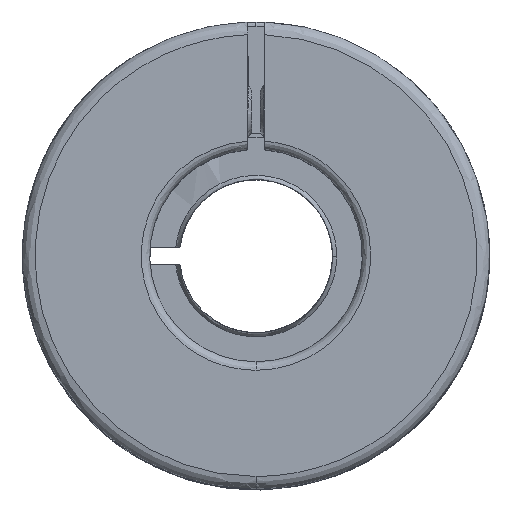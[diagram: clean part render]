
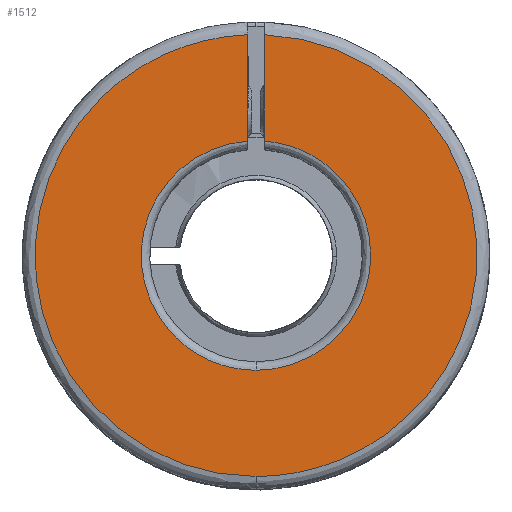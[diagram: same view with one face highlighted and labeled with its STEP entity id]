
A CAD part, top view. The second image highlights one B-rep face of the part: STEP entity #1512.
In plain terms, the highlighted planar face has unit normal (0, 0, 1).
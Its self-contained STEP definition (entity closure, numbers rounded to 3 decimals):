
#591 = VERTEX_POINT ( 'NONE', #14314 ) ;
#593 = EDGE_CURVE ( 'NONE', #591, #648, #14312, .T. ) ;
#599 = VERTEX_POINT ( 'NONE', #14374 ) ;
#648 = VERTEX_POINT ( 'NONE', #14676 ) ;
#661 = EDGE_CURVE ( 'NONE', #599, #591, #14717, .T. ) ;
#719 = EDGE_CURVE ( 'NONE', #720, #599, #14885, .T. ) ;
#720 = VERTEX_POINT ( 'NONE', #14881 ) ;
#1032 = EDGE_CURVE ( 'NONE', #648, #1033, #2663, .T. ) ;
#1033 = VERTEX_POINT ( 'NONE', #2688 ) ;
#1444 = EDGE_CURVE ( 'NONE', #1033, #1519, #3732, .T. ) ;
#1445 = ORIENTED_EDGE ( 'NONE', *, *, #1032, .F. ) ;
#1512 = ADVANCED_FACE ( 'NONE', ( #3997 ), #3996, .F. ) ;
#1513 = EDGE_LOOP ( 'NONE', ( #1514, #1515, #1516, #1517, #1520, #1445 ) ) ;
#1514 = ORIENTED_EDGE ( 'NONE', *, *, #593, .F. ) ;
#1515 = ORIENTED_EDGE ( 'NONE', *, *, #661, .F. ) ;
#1516 = ORIENTED_EDGE ( 'NONE', *, *, #719, .F. ) ;
#1517 = ORIENTED_EDGE ( 'NONE', *, *, #1518, .F. ) ;
#1518 = EDGE_CURVE ( 'NONE', #1519, #720, #3991, .T. ) ;
#1519 = VERTEX_POINT ( 'NONE', #4042 ) ;
#1520 = ORIENTED_EDGE ( 'NONE', *, *, #1444, .F. ) ;
#2662 = CARTESIAN_POINT ( 'NONE',  ( -2.172, 3.674, 42.541 ) ) ;
#2663 = LINE ( 'NONE', #2662, #2690 ) ;
#2688 = CARTESIAN_POINT ( 'NONE',  ( -2.172, 17.137, 42.541 ) ) ;
#2689 = DIRECTION ( 'NONE',  ( 0., -1., 0. ) ) ;
#2690 = VECTOR ( 'NONE', #2689, 1000. ) ;
#3730 = CARTESIAN_POINT ( 'NONE',  ( -27.222, 15.276, 42.541 ) ) ;
#3731 = CARTESIAN_POINT ( 'NONE',  ( -2.172, 17.137, 42.541 ) ) ;
#3732 =( BOUNDED_CURVE ( )  B_SPLINE_CURVE ( 3, ( #3731, #3730, #3765, #3764 ),
 .UNSPECIFIED., .F., .T. ) 
 B_SPLINE_CURVE_WITH_KNOTS ( ( 4, 4 ),
 ( 0., 1. ),
 .UNSPECIFIED. ) 
 CURVE ( )  GEOMETRIC_REPRESENTATION_ITEM ( )  RATIONAL_B_SPLINE_CURVE ( ( 1., 0.358, 0.358, 1. ) ) 
 REPRESENTATION_ITEM ( '' )  );
#3764 = CARTESIAN_POINT ( 'NONE',  ( -1.172, -9.826, 42.541 ) ) ;
#3765 = CARTESIAN_POINT ( 'NONE',  ( -26.291, -9.826, 42.541 ) ) ;
#3991 =( BOUNDED_CURVE ( )  B_SPLINE_CURVE ( 3, ( #4041, #4040, #4039, #4038 ),
 .UNSPECIFIED., .F., .F. ) 
 B_SPLINE_CURVE_WITH_KNOTS ( ( 4, 4 ),
 ( 0., 1. ),
 .UNSPECIFIED. ) 
 CURVE ( )  GEOMETRIC_REPRESENTATION_ITEM ( )  RATIONAL_B_SPLINE_CURVE ( ( 1., 0.358, 0.358, 1. ) ) 
 REPRESENTATION_ITEM ( '' )  );
#3992 = DIRECTION ( 'NONE',  ( 0., 1., 0. ) ) ;
#3993 = DIRECTION ( 'NONE',  ( 0., 0., -1. ) ) ;
#3994 = CARTESIAN_POINT ( 'NONE',  ( -1.172, 3.674, 42.541 ) ) ;
#3995 = AXIS2_PLACEMENT_3D ( 'NONE', #3994, #3993, #3992 ) ;
#3996 = PLANE ( 'NONE',  #3995 ) ;
#3997 = FACE_OUTER_BOUND ( 'NONE', #1513, .T. ) ;
#4038 = CARTESIAN_POINT ( 'NONE',  ( -0.172, 17.137, 42.541 ) ) ;
#4039 = CARTESIAN_POINT ( 'NONE',  ( 24.879, 15.276, 42.541 ) ) ;
#4040 = CARTESIAN_POINT ( 'NONE',  ( 23.948, -9.826, 42.541 ) ) ;
#4041 = CARTESIAN_POINT ( 'NONE',  ( -1.172, -9.826, 42.541 ) ) ;
#4042 = CARTESIAN_POINT ( 'NONE',  ( -1.172, -9.826, 42.541 ) ) ;
#14312 =( BOUNDED_CURVE ( )  B_SPLINE_CURVE ( 3, ( #14354, #14353, #14352, #14351 ),
 .UNSPECIFIED., .F., .F. ) 
 B_SPLINE_CURVE_WITH_KNOTS ( ( 4, 4 ),
 ( 0., 1. ),
 .UNSPECIFIED. ) 
 CURVE ( )  GEOMETRIC_REPRESENTATION_ITEM ( )  RATIONAL_B_SPLINE_CURVE ( ( 1., 0.346, 0.346, 1. ) ) 
 REPRESENTATION_ITEM ( '' )  );
#14314 = CARTESIAN_POINT ( 'NONE',  ( -1.172, -22.326, 42.541 ) ) ;
#14351 = CARTESIAN_POINT ( 'NONE',  ( -2.172, 29.655, 42.541 ) ) ;
#14352 = CARTESIAN_POINT ( 'NONE',  ( -52.199, 27.729, 42.541 ) ) ;
#14353 = CARTESIAN_POINT ( 'NONE',  ( -51.236, -22.326, 42.541 ) ) ;
#14354 = CARTESIAN_POINT ( 'NONE',  ( -1.172, -22.326, 42.541 ) ) ;
#14374 = CARTESIAN_POINT ( 'NONE',  ( -0.172, 29.655, 42.541 ) ) ;
#14676 = CARTESIAN_POINT ( 'NONE',  ( -2.172, 29.655, 42.541 ) ) ;
#14713 = CARTESIAN_POINT ( 'NONE',  ( -1.172, -22.326, 42.541 ) ) ;
#14714 = CARTESIAN_POINT ( 'NONE',  ( 48.893, -22.326, 42.541 ) ) ;
#14715 = CARTESIAN_POINT ( 'NONE',  ( 49.856, 27.729, 42.541 ) ) ;
#14716 = CARTESIAN_POINT ( 'NONE',  ( -0.172, 29.655, 42.541 ) ) ;
#14717 =( BOUNDED_CURVE ( )  B_SPLINE_CURVE ( 3, ( #14716, #14715, #14714, #14713 ),
 .UNSPECIFIED., .F., .T. ) 
 B_SPLINE_CURVE_WITH_KNOTS ( ( 4, 4 ),
 ( 0., 1. ),
 .UNSPECIFIED. ) 
 CURVE ( )  GEOMETRIC_REPRESENTATION_ITEM ( )  RATIONAL_B_SPLINE_CURVE ( ( 1., 0.346, 0.346, 1. ) ) 
 REPRESENTATION_ITEM ( '' )  );
#14881 = CARTESIAN_POINT ( 'NONE',  ( -0.172, 17.137, 42.541 ) ) ;
#14882 = DIRECTION ( 'NONE',  ( 0., 1., 0. ) ) ;
#14883 = VECTOR ( 'NONE', #14882, 1000. ) ;
#14884 = CARTESIAN_POINT ( 'NONE',  ( -0.172, 3.674, 42.541 ) ) ;
#14885 = LINE ( 'NONE', #14884, #14883 ) ;
